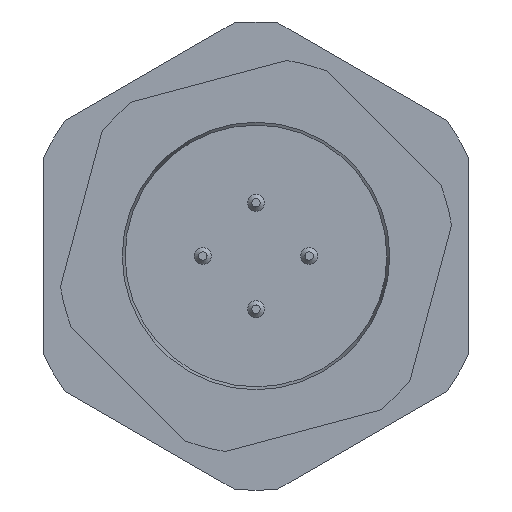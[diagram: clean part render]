
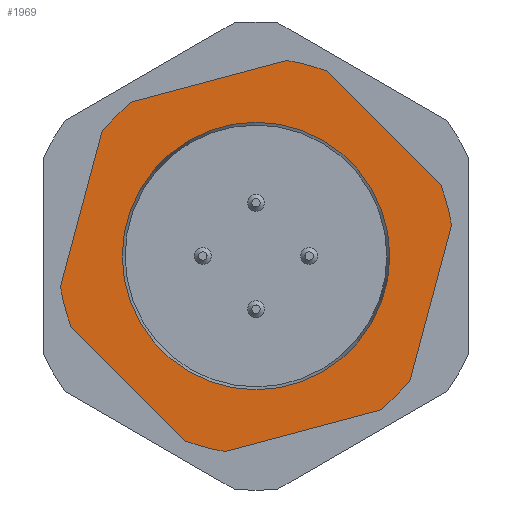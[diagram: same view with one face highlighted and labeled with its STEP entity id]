
A CAD part, front view. The second image highlights one B-rep face of the part: STEP entity #1969.
In plain terms, the highlighted planar face has unit normal (0, -1, 0).
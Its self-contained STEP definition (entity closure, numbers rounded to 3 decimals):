
#1352=LINE('',#6680,#1619);
#1353=LINE('',#6685,#1620);
#1354=LINE('',#6689,#1621);
#1355=LINE('',#6693,#1622);
#1356=LINE('',#6697,#1623);
#1357=LINE('',#6701,#1624);
#1619=VECTOR('',#5539,1.);
#1620=VECTOR('',#5542,1.);
#1621=VECTOR('',#5545,1.);
#1622=VECTOR('',#5548,1.);
#1623=VECTOR('',#5551,1.);
#1624=VECTOR('',#5554,1.);
#1803=FACE_BOUND('',#2443,.T.);
#1804=FACE_BOUND('',#2444,.T.);
#1969=ADVANCED_FACE('',(#1803,#1804),#2080,.T.);
#2080=PLANE('',#4712);
#2443=EDGE_LOOP('',(#3201));
#2444=EDGE_LOOP('',(#3202,#3203,#3204,#3205,#3206,#3207,#3208,#3209,#3210,
#3211,#3212,#3213));
#3201=ORIENTED_EDGE('',*,*,#4014,.T.);
#3202=ORIENTED_EDGE('',*,*,#4015,.T.);
#3203=ORIENTED_EDGE('',*,*,#4016,.T.);
#3204=ORIENTED_EDGE('',*,*,#4017,.T.);
#3205=ORIENTED_EDGE('',*,*,#4018,.T.);
#3206=ORIENTED_EDGE('',*,*,#4019,.T.);
#3207=ORIENTED_EDGE('',*,*,#4020,.T.);
#3208=ORIENTED_EDGE('',*,*,#4021,.T.);
#3209=ORIENTED_EDGE('',*,*,#4022,.T.);
#3210=ORIENTED_EDGE('',*,*,#4023,.T.);
#3211=ORIENTED_EDGE('',*,*,#4024,.T.);
#3212=ORIENTED_EDGE('',*,*,#4025,.T.);
#3213=ORIENTED_EDGE('',*,*,#4026,.T.);
#3601=VERTEX_POINT('',#6678);
#3602=VERTEX_POINT('',#6681);
#3603=VERTEX_POINT('',#6682);
#3604=VERTEX_POINT('',#6684);
#3605=VERTEX_POINT('',#6686);
#3606=VERTEX_POINT('',#6688);
#3607=VERTEX_POINT('',#6690);
#3608=VERTEX_POINT('',#6692);
#3609=VERTEX_POINT('',#6694);
#3610=VERTEX_POINT('',#6696);
#3611=VERTEX_POINT('',#6698);
#3612=VERTEX_POINT('',#6700);
#3613=VERTEX_POINT('',#6702);
#4014=EDGE_CURVE('',#3601,#3601,#4210,.T.);
#4015=EDGE_CURVE('',#3602,#3603,#1352,.T.);
#4016=EDGE_CURVE('',#3603,#3604,#4211,.T.);
#4017=EDGE_CURVE('',#3604,#3605,#1353,.T.);
#4018=EDGE_CURVE('',#3605,#3606,#4212,.T.);
#4019=EDGE_CURVE('',#3606,#3607,#1354,.T.);
#4020=EDGE_CURVE('',#3607,#3608,#4213,.T.);
#4021=EDGE_CURVE('',#3608,#3609,#1355,.T.);
#4022=EDGE_CURVE('',#3609,#3610,#4214,.T.);
#4023=EDGE_CURVE('',#3610,#3611,#1356,.T.);
#4024=EDGE_CURVE('',#3611,#3612,#4215,.T.);
#4025=EDGE_CURVE('',#3612,#3613,#1357,.T.);
#4026=EDGE_CURVE('',#3613,#3602,#4216,.T.);
#4210=CIRCLE('',#4704,6.284);
#4211=CIRCLE('',#4706,9.3);
#4212=CIRCLE('',#4707,9.3);
#4213=CIRCLE('',#4708,9.3);
#4214=CIRCLE('',#4709,9.3);
#4215=CIRCLE('',#4710,9.3);
#4216=CIRCLE('',#4711,9.3);
#4704=AXIS2_PLACEMENT_3D('',#6677,#5535,#5536);
#4706=AXIS2_PLACEMENT_3D('',#6683,#5540,#5541);
#4707=AXIS2_PLACEMENT_3D('',#6687,#5543,#5544);
#4708=AXIS2_PLACEMENT_3D('',#6691,#5546,#5547);
#4709=AXIS2_PLACEMENT_3D('',#6695,#5549,#5550);
#4710=AXIS2_PLACEMENT_3D('',#6699,#5552,#5553);
#4711=AXIS2_PLACEMENT_3D('',#6703,#5555,#5556);
#4712=AXIS2_PLACEMENT_3D('',#6704,#5557,#5558);
#5535=DIRECTION('',(0.,1.,0.));
#5536=DIRECTION('',(1.,0.,0.));
#5539=DIRECTION('',(-0.966,0.,-0.259));
#5540=DIRECTION('',(0.,-1.,0.));
#5541=DIRECTION('',(-0.628,0.,0.778));
#5542=DIRECTION('',(-0.259,0.,-0.966));
#5543=DIRECTION('',(0.,-1.,0.));
#5544=DIRECTION('',(-0.988,0.,-0.155));
#5545=DIRECTION('',(0.707,0.,-0.707));
#5546=DIRECTION('',(0.,-1.,0.));
#5547=DIRECTION('',(-0.359,0.,-0.933));
#5548=DIRECTION('',(0.966,0.,0.259));
#5549=DIRECTION('',(0.,-1.,0.));
#5550=DIRECTION('',(0.628,0.,-0.778));
#5551=DIRECTION('',(0.259,0.,0.966));
#5552=DIRECTION('',(0.,-1.,0.));
#5553=DIRECTION('',(0.988,0.,0.155));
#5554=DIRECTION('',(-0.707,0.,0.707));
#5555=DIRECTION('',(0.,-1.,0.));
#5556=DIRECTION('',(0.359,0.,0.933));
#5557=DIRECTION('',(0.,-1.,0.));
#5558=DIRECTION('',(0.,0.,1.));
#6677=CARTESIAN_POINT('',(83.208,-276.204,18.82));
#6678=CARTESIAN_POINT('',(89.492,-276.204,18.82));
#6680=CARTESIAN_POINT('',(84.653,-276.204,28.007));
#6681=CARTESIAN_POINT('',(84.653,-276.204,28.007));
#6682=CARTESIAN_POINT('',(77.363,-276.204,26.053));
#6683=CARTESIAN_POINT('',(83.208,-276.204,18.82));
#6684=CARTESIAN_POINT('',(75.974,-276.204,24.665));
#6685=CARTESIAN_POINT('',(75.974,-276.204,24.665));
#6686=CARTESIAN_POINT('',(74.021,-276.204,17.374));
#6687=CARTESIAN_POINT('',(83.208,-276.204,18.82));
#6688=CARTESIAN_POINT('',(74.529,-276.204,15.477));
#6689=CARTESIAN_POINT('',(74.529,-276.204,15.477));
#6690=CARTESIAN_POINT('',(79.866,-276.204,10.141));
#6691=CARTESIAN_POINT('',(83.208,-276.204,18.82));
#6692=CARTESIAN_POINT('',(81.763,-276.204,9.632));
#6693=CARTESIAN_POINT('',(81.763,-276.204,9.632));
#6694=CARTESIAN_POINT('',(89.053,-276.204,11.586));
#6695=CARTESIAN_POINT('',(83.208,-276.204,18.82));
#6696=CARTESIAN_POINT('',(90.442,-276.204,12.975));
#6697=CARTESIAN_POINT('',(90.442,-276.204,12.975));
#6698=CARTESIAN_POINT('',(92.395,-276.204,20.265));
#6699=CARTESIAN_POINT('',(83.208,-276.204,18.82));
#6700=CARTESIAN_POINT('',(91.887,-276.204,22.162));
#6701=CARTESIAN_POINT('',(91.887,-276.204,22.162));
#6702=CARTESIAN_POINT('',(86.55,-276.204,27.498));
#6703=CARTESIAN_POINT('',(83.208,-276.204,18.82));
#6704=CARTESIAN_POINT('',(93.438,-276.204,8.59));
